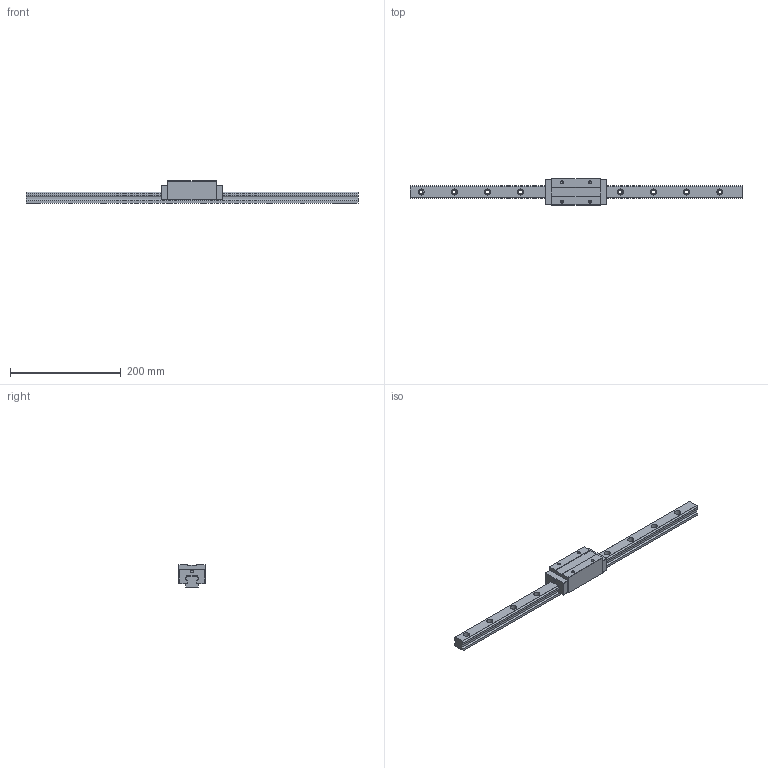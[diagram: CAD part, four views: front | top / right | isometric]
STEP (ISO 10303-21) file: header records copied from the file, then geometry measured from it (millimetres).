
FILE_DESCRIPTION (( 'STEP AP203' ), '1' );
FILE_NAME ('TRH25VE-XN.STEP', '2023-01-31T09:29:10', ( '' ), ( '' ), 'SwSTEP 2.0', 'SolidWorks 2019', '' );
FILE_SCHEMA (( 'CONFIG_CONTROL_DESIGN' ));
Length unit declared in the file: millimetre
Products named in the file (1): TRH25VE-XN
Bounding box: 600 x 48 x 40 mm (x, y, z)
Volume: 371937 mm3; surface area: 87213.5 mm2
Topology: 4 solids, 4 shells, 172 faces, 440 edges, 284 vertices
Faces by surface type: plane 84, cylinder 72, cone 16
Entity records: 5283 total; most frequent: DIRECTION 930, CARTESIAN_POINT 889, ORIENTED_EDGE 864, EDGE_CURVE 432, AXIS2_PLACEMENT_3D 325, VERTEX_POINT 284, VECTOR 280, LINE 280
